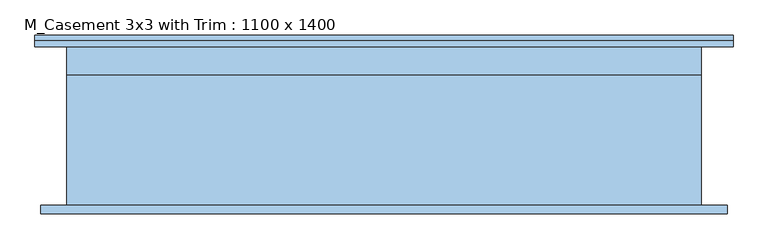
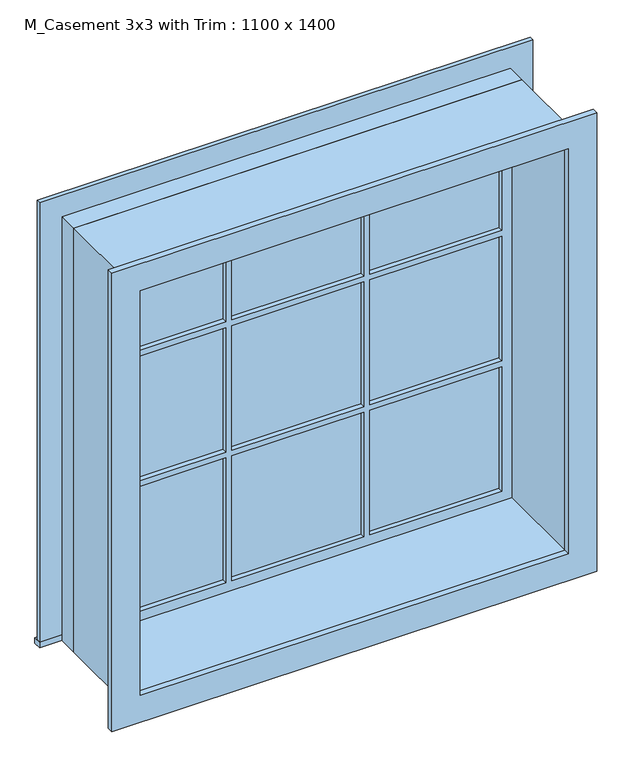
"""IFC4 building model written with IfcOpenShell, lengths in millimetres: window geometry, M_Casement 3x3 with Trim : 1100 x 1400."""

from ifc_helpers import new_model, si_unit, frame, origin, place, context, project, spatial, polyline, outline, extrude, source, transform, mapped, element, save


def m_casement_3x3_with_trim_1100_x_1400_df31fcd5(model_context):
    return source(origin(), model_context, "Body", "SweptSolid", [
        extrude(outline(polyline([(-769.95, 200.7), (769.95, 200.7), (769.95, 175.0), (-769.95, 175.0), (-769.95, 200.7)])), frame((0.0, 0.0, 915.0), z_axis=(0.0, 0.0, 1.0), x_axis=(1.0, 0.0, 0.0)), (0.0, 0.0, 1.0), 19.05),
        extrude(outline(polyline([(2295.95, -680.95), (2295.95, 680.95), (934.05, 680.95), (934.05, 769.95), (2384.95, 769.95), (2384.95, -769.95), (934.05, -769.95), (934.05, -680.95), (2295.95, -680.95)])), frame((0.0, 175.0, 0.0), z_axis=(0.0, 1.0, 0.0), x_axis=(0.0, 0.0, 1.0)), (0.0, 0.0, 1.0), 13.0),
        extrude(outline(polyline([(224.8666667, 140.125), (636.5, 140.125), (636.5, 127.425), (224.8666667, 127.425), (224.8666667, 140.125)])), frame((0.0, 0.0, 1839.8666667), z_axis=(0.0, 0.0, 1.0), x_axis=(1.0, 0.0, 0.0)), (0.0, 0.0, 1.0), 411.6333333),
        extrude(outline(polyline([(-205.8166667, 140.125), (205.8166667, 140.125), (205.8166667, 127.425), (-205.8166667, 127.425), (-205.8166667, 140.125)])), frame((0.0, 0.0, 1839.8666667), z_axis=(0.0, 0.0, 1.0), x_axis=(1.0, 0.0, 0.0)), (0.0, 0.0, 1.0), 411.6333333),
        extrude(outline(polyline([(-636.5, 140.125), (-224.8666667, 140.125), (-224.8666667, 127.425), (-636.5, 127.425), (-636.5, 140.125)])), frame((0.0, 0.0, 1839.8666667), z_axis=(0.0, 0.0, 1.0), x_axis=(1.0, 0.0, 0.0)), (0.0, 0.0, 1.0), 411.6333333),
        extrude(outline(polyline([(-636.5, 140.125), (-224.8666667, 140.125), (-224.8666667, 127.425), (-636.5, 127.425), (-636.5, 140.125)])), frame((0.0, 0.0, 1409.1833333), z_axis=(0.0, 0.0, 1.0), x_axis=(1.0, 0.0, 0.0)), (0.0, 0.0, 1.0), 411.6333333),
        extrude(outline(polyline([(-205.8166667, 140.125), (205.8166667, 140.125), (205.8166667, 127.425), (-205.8166667, 127.425), (-205.8166667, 140.125)])), frame((0.0, 0.0, 1409.1833333), z_axis=(0.0, 0.0, 1.0), x_axis=(1.0, 0.0, 0.0)), (0.0, 0.0, 1.0), 411.6333333),
        extrude(outline(polyline([(224.8666667, 140.125), (636.5, 140.125), (636.5, 127.425), (224.8666667, 127.425), (224.8666667, 140.125)])), frame((0.0, 0.0, 1409.1833333), z_axis=(0.0, 0.0, 1.0), x_axis=(1.0, 0.0, 0.0)), (0.0, 0.0, 1.0), 411.6333333),
        extrude(outline(polyline([(224.8666667, 140.125), (636.5, 140.125), (636.5, 127.425), (224.8666667, 127.425), (224.8666667, 140.125)])), frame((0.0, 0.0, 978.5), z_axis=(0.0, 0.0, 1.0), x_axis=(1.0, 0.0, 0.0)), (0.0, 0.0, 1.0), 411.6333333),
        extrude(outline(polyline([(-205.8166667, 140.125), (205.8166667, 140.125), (205.8166667, 127.425), (-205.8166667, 127.425), (-205.8166667, 140.125)])), frame((0.0, 0.0, 978.5), z_axis=(0.0, 0.0, 1.0), x_axis=(1.0, 0.0, 0.0)), (0.0, 0.0, 1.0), 411.6333333),
        extrude(outline(polyline([(-636.5, 140.125), (-224.8666667, 140.125), (-224.8666667, 127.425), (-636.5, 127.425), (-636.5, 140.125)])), frame((0.0, 0.0, 978.5), z_axis=(0.0, 0.0, 1.0), x_axis=(1.0, 0.0, 0.0)), (0.0, 0.0, 1.0), 411.6333333),
        extrude(outline(polyline([(2372.25, 757.25), (2372.25, -757.25), (857.75, -757.25), (857.75, 757.25), (2372.25, 757.25)]), holes=[polyline([(2283.25, 668.25), (946.75, 668.25), (946.75, -668.25), (2283.25, -668.25), (2283.25, 668.25)])]), frame((0.0, -194.0, 0.0), z_axis=(0.0, 1.0, 0.0), x_axis=(0.0, 0.0, 1.0)), (0.0, 0.0, 1.0), 19.0),
        extrude(outline(polyline([(2295.95, -680.95), (934.05, -680.95), (934.05, 680.95), (2295.95, 680.95), (2295.95, -680.95)]), holes=[polyline([(2251.5, -224.8666667), (1839.8666667, -224.8666667), (1839.8666667, -636.5), (2251.5, -636.5), (2251.5, -224.8666667)]), polyline([(1820.8166667, -224.8666667), (1409.1833333, -224.8666667), (1409.1833333, -636.5), (1820.8166667, -636.5), (1820.8166667, -224.8666667)]), polyline([(1390.1333333, -224.8666667), (978.5, -224.8666667), (978.5, -636.5), (1390.1333333, -636.5), (1390.1333333, -224.8666667)]), polyline([(2251.5, 205.8166667), (1839.8666667, 205.8166667), (1839.8666667, -205.8166667), (2251.5, -205.8166667), (2251.5, 205.8166667)]), polyline([(1820.8166667, 205.8166667), (1409.1833333, 205.8166667), (1409.1833333, -205.8166667), (1820.8166667, -205.8166667), (1820.8166667, 205.8166667)]), polyline([(1390.1333333, 205.8166667), (978.5, 205.8166667), (978.5, -205.8166667), (1390.1333333, -205.8166667), (1390.1333333, 205.8166667)]), polyline([(2251.5, 636.5), (1839.8666667, 636.5), (1839.8666667, 224.8666667), (2251.5, 224.8666667), (2251.5, 636.5)]), polyline([(1820.8166667, 636.5), (1409.1833333, 636.5), (1409.1833333, 224.8666667), (1820.8166667, 224.8666667), (1820.8166667, 636.5)]), polyline([(1390.1333333, 636.5), (978.5, 636.5), (978.5, 224.8666667), (1390.1333333, 224.8666667), (1390.1333333, 636.5)])]), frame((0.0, 111.55, 0.0), z_axis=(0.0, 1.0, 0.0), x_axis=(0.0, 0.0, 1.0)), (0.0, 0.0, 1.0), 44.45),
        extrude(outline(polyline([(2315.0, -700.0), (915.0, -700.0), (915.0, 700.0), (2315.0, 700.0), (2315.0, -700.0)]), holes=[polyline([(2283.25, -668.25), (2283.25, 668.25), (946.75, 668.25), (946.75, -668.25), (2283.25, -668.25)])]), frame((0.0, -175.0, 0.0), z_axis=(0.0, 1.0, 0.0), x_axis=(0.0, 0.0, 1.0)), (0.0, 0.0, 1.0), 286.55),
        extrude(outline(polyline([(2315.0, 700.0), (2315.0, -700.0), (915.0, -700.0), (915.0, 700.0), (2315.0, 700.0)]), holes=[polyline([(2295.95, 680.95), (934.05, 680.95), (934.05, -680.95), (2295.95, -680.95), (2295.95, 680.95)])]), frame((0.0, 111.55, 0.0), z_axis=(0.0, 1.0, 0.0), x_axis=(0.0, 0.0, 1.0)), (0.0, 0.0, 1.0), 63.45),
    ])


if __name__ == "__main__":
    model = new_model("IFC4")
    model_context = context("Model", 3, world=origin())
    ifc_project = project(units=[si_unit("LENGTHUNIT", "METRE", prefix="MILLI")], contexts=[model_context])
    site = spatial("IfcSite", under=ifc_project)
    building = spatial("IfcBuilding", under=site)
    placement = place(None, origin())
    m_casement_3x3_with_trim_1100_x_1400_shape = m_casement_3x3_with_trim_1100_x_1400_df31fcd5(model_context)
    element("IfcWindow", 1, ObjectType="M_Casement 3x3 with Trim : 1100 x 1400", at=placement, inside=building, context=model_context, shape_type="MappedRepresentation", body=[
        mapped(m_casement_3x3_with_trim_1100_x_1400_shape, transform((0.0, 0.0, 0.0), x_axis=(1.0, 0.0, 0.0), y_axis=(0.0, 1.0, 0.0), z_axis=(0.0, 0.0, 1.0))),
    ])
    save(model, "model.ifc")
